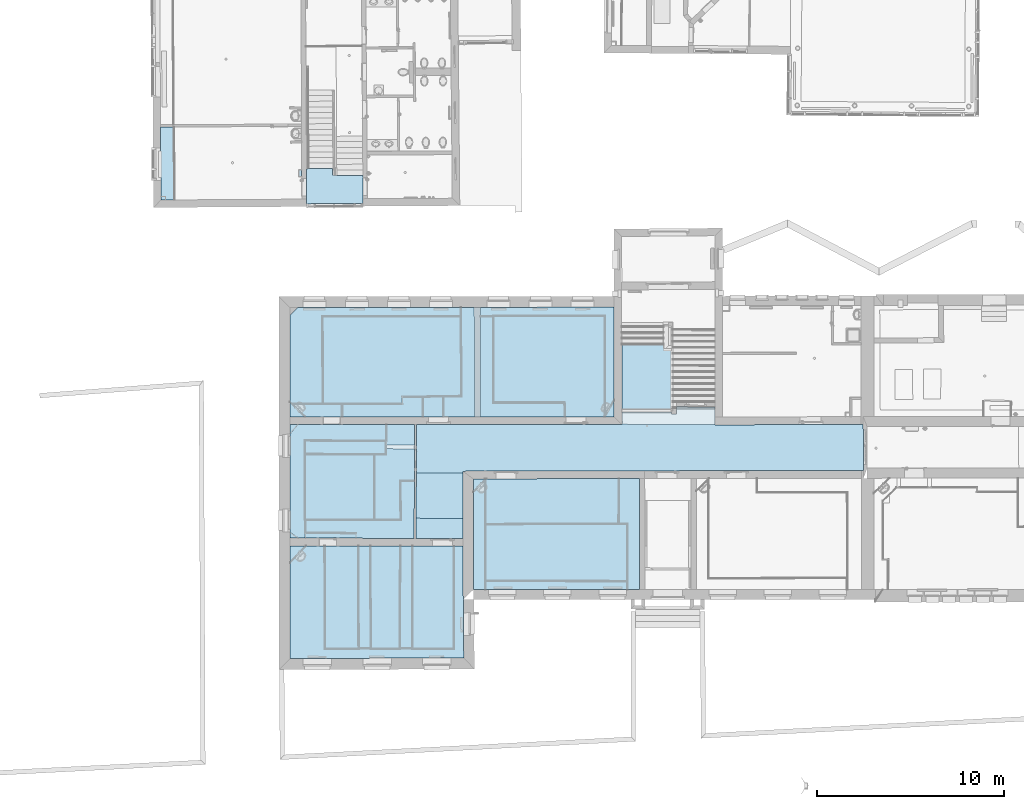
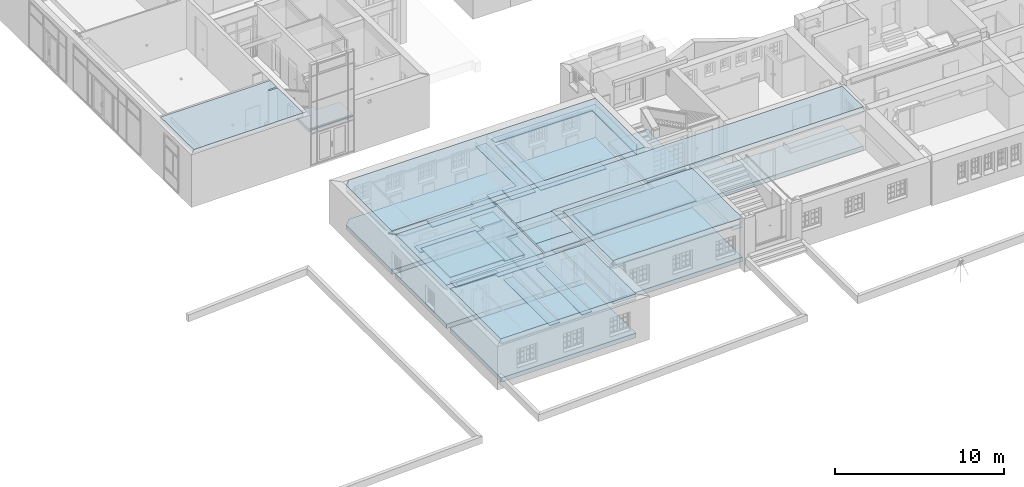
# One storey, part 10 of 196: 37 slabs.
"""IFC2X3 building model written with IfcOpenShell, lengths in metres."""

from ifc_helpers import new_model, entity, si_unit, converted_unit, derived_unit, money_unit, direction, frame, origin_with_axes, place, context, subcontext, project, spatial, polyline, outline, extrude, material, layer, layer_set, layer_usage, type_object, element, save


model = new_model("IFC2X3")

# Units and contexts
model_context = context("Model", 3, precision=1e-05, world=origin_with_axes(), true_north=direction((0.0, 1.0)))
body_context = subcontext(model_context, "Body", "Model", "MODEL_VIEW")
ifc_project = project(units=[si_unit("LENGTHUNIT", "METRE"), si_unit("AREAUNIT", "SQUARE_METRE"), si_unit("VOLUMEUNIT", "CUBIC_METRE"), converted_unit("PLANEANGLEUNIT", "DEGREE", entity("IfcPlaneAngleMeasure", 0.0174532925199), si_unit("PLANEANGLEUNIT", "RADIAN"), dimensions=[0, 0, 0, 0, 0, 0, 0]), money_unit("EUR"), converted_unit("TIMEUNIT", "Year", entity("IfcTimeMeasure", 31556926.0), si_unit("TIMEUNIT", "SECOND"), dimensions=[0, 0, 1, 0, 0, 0, 0]), si_unit("MASSUNIT", "GRAM", prefix="KILO"), si_unit("THERMODYNAMICTEMPERATUREUNIT", "DEGREE_CELSIUS"), si_unit("LUMINOUSINTENSITYUNIT", "LUMEN"), si_unit("ENERGYUNIT", "JOULE", prefix="MEGA"), derived_unit("THERMALCONDUCTANCEUNIT", [(si_unit("POWERUNIT", "WATT"), 1), (si_unit("LENGTHUNIT", "METRE"), -1), (si_unit("THERMODYNAMICTEMPERATUREUNIT", "KELVIN"), -1)]), derived_unit("SPECIFICHEATCAPACITYUNIT", [(si_unit("ENERGYUNIT", "JOULE"), 1), (si_unit("MASSUNIT", "GRAM", prefix="KILO"), -1), (si_unit("THERMODYNAMICTEMPERATUREUNIT", "KELVIN"), -1)]), derived_unit("MASSDENSITYUNIT", [(si_unit("MASSUNIT", "GRAM", prefix="KILO"), 1), (si_unit("VOLUMEUNIT", "CUBIC_METRE"), -1)])], contexts=[model_context])

# Site, building, storey
site_placement = place(None, origin_with_axes())
site = spatial("IfcSite", under=ifc_project, at=site_placement, Name="Gelände", CompositionType="ELEMENT")
building_placement = place(site_placement, origin_with_axes())
building = spatial("IfcBuilding", under=site, at=building_placement, Name="Gebäude", CompositionType="ELEMENT")
storey_placement = place(building_placement, frame((0.0, 0.0, -3.0), z_axis=(0.0, 0.0, 1.0), x_axis=(1.0, 0.0, 0.0)))
storey = spatial("IfcBuildingStorey", under=building, at=storey_placement, Name="KELLERGESCHOSS", CompositionType="ELEMENT", Elevation=-3.0)

# Slabs
ifc_material_1 = material(Name="01_ALLGEMEIN - BAUTEIL")
ifc_layer_1 = layer(ifc_material_1, 0.05, ventilated="UNKNOWN")
ifc_layer_set_1 = layer_set([ifc_layer_1], Name="01_ALLGEMEIN - BAUTEIL 0.05")
ifc_layer_usage_1 = layer_usage(ifc_layer_set_1, "AXIS3", "NEGATIVE", 0.05)
slab_type_1 = type_object("IfcSlabType", Name="01_ALLGEMEIN - BAUTEIL 50", PredefinedType="NOTDEFINED")
slab_1_placement = place(storey_placement, frame((-27.4208077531, 20.3658933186, 2.13), z_axis=(0.0, 0.0, 1.0), x_axis=(1.0, 0.0, 0.0)))
element("IfcSlab", 1, at=slab_1_placement, inside=storey, type_object=slab_type_1, material=ifc_layer_usage_1, Name="Belag-004", PredefinedType="NOTDEFINED", context=body_context, shape_type="SweptSolid", body=[
    extrude(outline(polyline([(0.0, 0.0), (0.711019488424, -0.694572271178), (2.65682893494, -0.69403436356), (2.65661020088, 0.00819850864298), (1.65122887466, 0.00509577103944), (0.0, 0.0)])), origin_with_axes(), (0.0, 0.0, 1.0), 0.05),
])
ifc_layer_usage_2 = layer_usage(ifc_layer_set_1, "AXIS3", "NEGATIVE", 0.05)
slab_2_placement = place(storey_placement, frame((-27.1241293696, 25.5129969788, 2.32), z_axis=(0.0, 0.0, 1.0), x_axis=(1.0, 0.0, 0.0)))
element("IfcSlab", 2, at=slab_2_placement, inside=storey, type_object=slab_type_1, material=ifc_layer_usage_2, Name="Belag-004", PredefinedType="NOTDEFINED", context=body_context, shape_type="SweptSolid", body=[
    extrude(outline(polyline([(0.0, 0.0), (-0.423357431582, -0.42905385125), (-0.419061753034, -5.02755124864), (-0.296678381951, -5.14710366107), (1.35455048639, -5.14200790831), (1.34646620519, -0.506597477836), (8.69243540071, -0.499245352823), (8.68835298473, 0.00580264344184), (0.0, 0.0)])), origin_with_axes(), (0.0, 0.0, 1.0), 0.05),
])
ifc_layer_usage_3 = layer_usage(ifc_layer_set_1, "AXIS3", "NEGATIVE", 0.05)
slab_3_placement = place(storey_placement, frame((-10.252070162, 25.5242652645, 2.32), z_axis=(0.0, 0.0, 1.0), x_axis=(1.0, 0.0, 0.0)))
element("IfcSlab", 3, at=slab_3_placement, inside=storey, type_object=slab_type_1, material=ifc_layer_usage_3, Name="Belag-004", PredefinedType="NOTDEFINED", context=body_context, shape_type="SweptSolid", body=[
    extrude(outline(polyline([(0.0, 0.0), (-7.12836812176, -0.00476081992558), (-7.12709412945, -0.485657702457), (-0.509999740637, -0.490862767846), (-0.504959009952, -5.83079872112), (0.000464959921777, -4.93922803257), (0.0, 0.0)])), origin_with_axes(), (0.0, 0.0, 1.0), 0.05),
])
ifc_layer_usage_4 = layer_usage(ifc_layer_set_1, "AXIS3", "NEGATIVE", 0.05)
slab_4_placement = place(storey_placement, frame((-24.7641975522, 20.3740918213, 2.04), z_axis=(0.0, 0.0, 1.0), x_axis=(1.0, 0.0, 0.0)))
element("IfcSlab", 4, at=slab_4_placement, inside=storey, type_object=slab_type_1, material=ifc_layer_usage_4, Name="Belag-005", PredefinedType="NOTDEFINED", context=body_context, shape_type="SweptSolid", body=[
    extrude(outline(polyline([(0.0, 0.0), (0.000218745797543, -0.702232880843), (4.32564877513, -0.701037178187), (4.33671136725, 0.384410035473), (3.21241515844, 0.366626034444), (3.21256941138, 0.0099141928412), (0.0, 0.0)])), origin_with_axes(), (0.0, 0.0, 1.0), 0.05),
])
ifc_layer_usage_5 = layer_usage(ifc_layer_set_1, "AXIS3", "NEGATIVE", 0.05)
slab_5_placement = place(storey_placement, frame((-22.4046540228, 17.6539421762, 2.11), z_axis=(0.0, 0.0, 1.0), x_axis=(1.0, 0.0, 0.0)))
element("IfcSlab", 5, at=slab_5_placement, inside=storey, type_object=slab_type_1, material=ifc_layer_usage_5, Name="Belag-005", PredefinedType="NOTDEFINED", context=body_context, shape_type="SweptSolid", body=[
    extrude(outline(polyline([(0.0, 0.0), (-0.00622231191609, 0.75222301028), (-4.33763410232, 0.764583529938), (-4.34363816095, 0.0135444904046), (0.0, 0.0)])), origin_with_axes(), (0.0, 0.0, 1.0), 0.05),
])
ifc_layer_usage_6 = layer_usage(ifc_layer_set_1, "AXIS3", "NEGATIVE", 0.05)
slab_6_placement = place(storey_placement, frame((-26.7248777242, 14.1971021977, 2.3), z_axis=(0.0, 0.0, 1.0), x_axis=(1.0, 0.0, 0.0)))
element("IfcSlab", 6, at=slab_6_placement, inside=storey, type_object=slab_type_1, material=ifc_layer_usage_6, Name="Belag-006", PredefinedType="NOTDEFINED", context=body_context, shape_type="SweptSolid", body=[
    extrude(outline(polyline([(0.0, 0.0), (0.00781968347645, -1.41614957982e-06), (0.0109195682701, 3.47027740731), (-0.0234144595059, 3.47038446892), (-0.0174104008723, 4.22142350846), (4.31400138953, 4.2090629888), (4.31462603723, 5.06540737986), (-0.382402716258, 5.06410897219), (-0.816688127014, 4.5485721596), (-0.811819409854, -0.663271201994), (-0.350114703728, -0.992453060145), (0.000887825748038, -0.992859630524), (3.45920057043e-08, -3.86843994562e-05), (0.0, 0.0)])), origin_with_axes(), (0.0, 0.0, 1.0), 0.05),
])
ifc_layer_usage_7 = layer_usage(ifc_layer_set_1, "AXIS3", "NEGATIVE", 0.05)
slab_7_placement = place(storey_placement, frame((-20.4274861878, 20.7585018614, 2.19), z_axis=(0.0, 0.0, 1.0), x_axis=(1.0, 0.0, 0.0)))
element("IfcSlab", 7, at=slab_7_placement, inside=storey, type_object=slab_type_1, material=ifc_layer_usage_7, Name="Belag-006", PredefinedType="NOTDEFINED", context=body_context, shape_type="SweptSolid", body=[
    extrude(outline(polyline([(0.0, 0.0), (-0.0110625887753, -1.08544716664), (1.05242650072, -1.08515318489), (1.05303472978, 0.0166567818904), (0.0, 0.0)])), origin_with_axes(), (0.0, 0.0, 1.0), 0.05),
])
ifc_layer_usage_8 = layer_usage(ifc_layer_set_1, "AXIS3", "NEGATIVE", 0.05)
slab_8_placement = place(storey_placement, frame((-26.7139581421, 17.6673796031, 2.42), z_axis=(0.0, 0.0, 1.0), x_axis=(1.0, 0.0, 0.0)))
element("IfcSlab", 8, at=slab_8_placement, inside=storey, type_object=slab_type_1, material=ifc_layer_usage_8, Name="Belag-007", PredefinedType="NOTDEFINED", context=body_context, shape_type="SweptSolid", body=[
    extrude(outline(polyline([(0.0, 0.0), (-0.00309989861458, -3.47027880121), (3.6989538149, -3.47094926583), (3.70042106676, -0.0115387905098), (0.0, 0.0)])), origin_with_axes(), (0.0, 0.0, 1.0), 0.05),
])
ifc_layer_usage_9 = layer_usage(ifc_layer_set_1, "AXIS3", "NEGATIVE", 0.05)
slab_9_placement = place(storey_placement, frame((-17.379164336, 25.0386075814, 2.11), z_axis=(0.0, 0.0, 1.0), x_axis=(1.0, 0.0, 0.0)))
element("IfcSlab", 9, at=slab_9_placement, inside=storey, type_object=slab_type_1, material=ifc_layer_usage_9, Name="Belag-007", PredefinedType="NOTDEFINED", context=body_context, shape_type="SweptSolid", body=[
    extrude(outline(polyline([(0.0, 0.0), (0.0142116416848, -5.36470327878), (4.52475215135, -5.36345636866), (4.51009803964, -4.59530377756), (0.721984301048, -4.5971578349), (0.714397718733, -0.000561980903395), (0.0, 0.0)])), origin_with_axes(), (0.0, 0.0, 1.0), 0.05),
])
ifc_layer_usage_10 = layer_usage(ifc_layer_set_1, "AXIS3", "NEGATIVE", 0.05)
slab_10_placement = place(storey_placement, frame((-19.3744514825, 20.7751586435, 2.12), z_axis=(0.0, 0.0, 1.0), x_axis=(1.0, 0.0, 0.0)))
element("IfcSlab", 10, at=slab_10_placement, inside=storey, type_object=slab_type_1, material=ifc_layer_usage_10, Name="Belag-007", PredefinedType="NOTDEFINED", context=body_context, shape_type="SweptSolid", body=[
    extrude(outline(polyline([(0.0, 0.0), (-0.000608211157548, -1.1018099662), (1.67949793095, -1.10134548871), (1.66401258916, 4.74412542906), (0.938675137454, 4.74364100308), (0.976893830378, 0.0154524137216), (0.0, 0.0)])), origin_with_axes(), (0.0, 0.0, 1.0), 0.05),
])
ifc_layer_usage_11 = layer_usage(ifc_layer_set_1, "AXIS3", "NEGATIVE", 0.05)
slab_11_placement = place(storey_placement, frame((-24.0126444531, 13.4749112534, 2.42), z_axis=(0.0, 0.0, 1.0), x_axis=(1.0, 0.0, 0.0)))
element("IfcSlab", 11, at=slab_11_placement, inside=storey, type_object=slab_type_1, material=ifc_layer_usage_11, Name="Belag-008", PredefinedType="NOTDEFINED", context=body_context, shape_type="SweptSolid", body=[
    extrude(outline(polyline([(0.0, 0.0), (-2.71161303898, 0.0285824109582), (-2.71134544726, -0.270668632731), (0.00884730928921, -0.273819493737), (0.0, 0.0)])), origin_with_axes(), (0.0, 0.0, 1.0), 0.05),
])
ifc_layer_usage_12 = layer_usage(ifc_layer_set_1, "AXIS3", "NEGATIVE", 0.05)
slab_12_placement = place(storey_placement, frame((-17.1070399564, 16.3035049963, 2.19), z_axis=(0.0, 0.0, 1.0), x_axis=(1.0, 0.0, 0.0)))
element("IfcSlab", 12, at=slab_12_placement, inside=storey, type_object=slab_type_1, material=ifc_layer_usage_12, Name="Belag-009", PredefinedType="NOTDEFINED", context=body_context, shape_type="SweptSolid", body=[
    extrude(outline(polyline([(0.0, 0.0), (-0.652491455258, -0.659788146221), (-0.642450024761, -5.84452901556), (0.019763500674, -5.84447919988), (0.0, 0.0)])), origin_with_axes(), (0.0, 0.0, 1.0), 0.05),
])
ifc_layer_usage_13 = layer_usage(ifc_layer_set_1, "AXIS3", "NEGATIVE", 0.05)
slab_13_placement = place(storey_placement, frame((-26.6612188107, 12.7941696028, 2.37), z_axis=(0.0, 0.0, 1.0), x_axis=(1.0, 0.0, 0.0)))
element("IfcSlab", 13, at=slab_13_placement, inside=storey, type_object=slab_type_1, material=ifc_layer_usage_13, Name="Belag-009", PredefinedType="NOTDEFINED", context=body_context, shape_type="SweptSolid", body=[
    extrude(outline(polyline([(0.0, 0.0), (-0.873922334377, -0.926032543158), (-0.869179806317, -6.0028821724), (8.39576273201, -5.98317224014), (8.36535842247, -2.85523477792), (8.3657351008, -2.85523477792), (8.36022402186, -0.00968382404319), (7.85964862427, -0.00910395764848), (7.85944198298, -5.47727624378), (0.998815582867, -5.49242059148), (0.994092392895, -0.00115144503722), (0.0, 0.0)])), origin_with_axes(), (0.0, 0.0, 1.0), 0.05),
])
ifc_layer_usage_14 = layer_usage(ifc_layer_set_1, "AXIS3", "NEGATIVE", 0.05)
slab_14_placement = place(storey_placement, frame((-23.0150043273, 14.1964303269, 2.28), z_axis=(0.0, 0.0, 1.0), x_axis=(1.0, 0.0, 0.0)))
element("IfcSlab", 14, at=slab_14_placement, inside=storey, type_object=slab_type_1, material=ifc_layer_usage_14, Name="Belag-009", PredefinedType="NOTDEFINED", context=body_context, shape_type="SweptSolid", body=[
    extrude(outline(polyline([(0.0, 0.0), (1.37476518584, -0.000248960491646), (1.36301746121, 2.07662925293), (2.1143023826, 2.06884242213), (2.12425990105, 3.77234647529), (0.60768507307, 3.77971480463), (0.610350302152, 3.45751182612), (0.00146723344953, 3.45941051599), (0.0, 0.0)])), origin_with_axes(), (0.0, 0.0, 1.0), 0.05),
])
ifc_layer_usage_15 = layer_usage(ifc_layer_set_1, "AXIS3", "NEGATIVE", 0.05)
slab_15_placement = place(storey_placement, frame((-10.009695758, 16.3856386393, 2.1), z_axis=(0.0, 0.0, 1.0), x_axis=(1.0, 0.0, 0.0)))
element("IfcSlab", 15, at=slab_15_placement, inside=storey, type_object=slab_type_1, material=ifc_layer_usage_15, Name="Belag-010", PredefinedType="NOTDEFINED", context=body_context, shape_type="SweptSolid", body=[
    extrude(outline(polyline([(0.0, 0.0), (-0.00718776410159, -2.43545473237), (0.469125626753, -2.43394370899), (0.462261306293, -5.92604535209), (1.11880260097, -5.92599596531), (1.11404459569, 0.0029124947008), (0.0, 0.0)])), origin_with_axes(), (0.0, 0.0, 1.0), 0.05),
])
ifc_layer_usage_16 = layer_usage(ifc_layer_set_1, "AXIS3", "NEGATIVE", 0.05)
slab_16_placement = place(storey_placement, frame((-23.2313996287, 12.7901968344, 2.13), z_axis=(0.0, 0.0, 1.0), x_axis=(1.0, 0.0, 0.0)))
element("IfcSlab", 16, at=slab_16_placement, inside=storey, type_object=slab_type_1, material=ifc_layer_usage_16, Name="Belag-010", PredefinedType="NOTDEFINED", context=body_context, shape_type="SweptSolid", body=[
    extrude(outline(polyline([(0.0, 0.0), (-0.666003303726, 0.000771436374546), (-0.651102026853, -5.48451881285), (0.030031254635, -5.48301525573), (0.0, 0.0)])), origin_with_axes(), (0.0, 0.0, 1.0), 0.05),
])
ifc_layer_usage_17 = layer_usage(ifc_layer_set_1, "AXIS3", "NEGATIVE", 0.05)
slab_17_placement = place(storey_placement, frame((-26.7248777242, 14.197063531, 2.11), z_axis=(0.0, 0.0, 1.0), x_axis=(1.0, 0.0, 0.0)))
element("IfcSlab", 17, at=slab_17_placement, inside=storey, type_object=slab_type_1, material=ifc_layer_usage_17, Name="Belag-010", PredefinedType="NOTDEFINED", context=body_context, shape_type="SweptSolid", body=[
    extrude(outline(polyline([(0.0, 0.0), (0.000620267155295, -0.693569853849), (2.71223325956, -0.722152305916), (2.72108059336, -0.995971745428), (5.80624394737, -0.999545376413), (5.824175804, 2.0682091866), (5.07289081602, 2.07599606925), (5.08463857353, -0.000882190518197), (0.00781968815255, 3.72316509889e-05), (0.0, 3.87070310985e-05), (0.0, 0.0)])), origin_with_axes(), (0.0, 0.0, 1.0), 0.05),
])
ifc_layer_usage_18 = layer_usage(ifc_layer_set_1, "AXIS3", "NEGATIVE", 0.05)
slab_18_placement = place(storey_placement, frame((-22.4102516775, 19.2625095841, 2.04963508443), z_axis=(0.0, 0.0, 1.0), x_axis=(1.0, 0.0, 0.0)))
element("IfcSlab", 18, at=slab_18_placement, inside=storey, type_object=slab_type_1, material=ifc_layer_usage_18, Name="Belag-011", PredefinedType="NOTDEFINED", context=body_context, shape_type="SweptSolid", body=[
    extrude(outline(polyline([(0.0, 0.0), (-0.00062465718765, -0.856344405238), (0.00123601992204, -1.08128307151), (1.52069591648, -1.09037540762), (1.52707192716, 0.00042214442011), (0.0, 0.0)])), origin_with_axes(), (0.0, 0.0, 1.0), 0.05),
])
ifc_layer_usage_19 = layer_usage(ifc_layer_set_1, "AXIS3", "NEGATIVE", 0.05)
slab_19_placement = place(storey_placement, frame((-21.6632399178, 12.7883803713, 2.13), z_axis=(0.0, 0.0, 1.0), x_axis=(1.0, 0.0, 0.0)))
element("IfcSlab", 19, at=slab_19_placement, inside=storey, type_object=slab_type_1, material=ifc_layer_usage_19, Name="Belag-011", PredefinedType="NOTDEFINED", context=body_context, shape_type="SweptSolid", body=[
    extrude(outline(polyline([(0.0, 0.0), (-0.0267612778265, -5.47786256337), (0.664377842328, -5.47633696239), (0.665660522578, -0.00077104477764), (0.0, 0.0)])), origin_with_axes(), (0.0, 0.0, 1.0), 0.05),
])
ifc_layer_usage_20 = layer_usage(ifc_layer_set_1, "AXIS3", "NEGATIVE", 0.05)
slab_20_placement = place(storey_placement, frame((-17.1070399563, 16.3035049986, 2.27), z_axis=(0.0, 0.0, 1.0), x_axis=(1.0, 0.0, 0.0)))
element("IfcSlab", 20, at=slab_20_placement, inside=storey, type_object=slab_type_1, material=ifc_layer_usage_20, Name="Belag-011", PredefinedType="NOTDEFINED", context=body_context, shape_type="SweptSolid", body=[
    extrude(outline(polyline([(0.0, 0.0), (0.00803385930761, -2.37578915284), (7.09015644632, -2.3533211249), (7.09734423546, 0.0821336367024), (0.0630388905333, 0.0637438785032), (0.0, 0.0)])), origin_with_axes(), (0.0, 0.0, 1.0), 0.05),
])
ifc_layer_usage_21 = layer_usage(ifc_layer_set_1, "AXIS3", "NEGATIVE", 0.05)
slab_21_placement = place(storey_placement, frame((-9.54653094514, 10.9192363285, 2.36), z_axis=(0.0, 0.0, 1.0), x_axis=(1.0, 0.0, 0.0)))
element("IfcSlab", 21, at=slab_21_placement, inside=storey, type_object=slab_type_1, material=ifc_layer_usage_21, Name="Belag-012", PredefinedType="NOTDEFINED", context=body_context, shape_type="SweptSolid", body=[
    extrude(outline(polyline([(0.0, 0.0), (-7.54233751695, 0.0105789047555), (-7.54074551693, -0.460210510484), (-0.000903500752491, -0.459643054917), (0.0, 0.0)])), origin_with_axes(), (0.0, 0.0, 1.0), 0.05),
])
ifc_material_2 = material(Name="05_ALLGEMEIN - TRAGENDE BAUTEILE")
ifc_layer_2 = layer(ifc_material_2, 0.33, ventilated="UNKNOWN")
ifc_layer_set_2 = layer_set([ifc_layer_2], Name="05_ALLGEMEIN - TRAGENDE BAUTEILE 0.33")
ifc_layer_usage_22 = layer_usage(ifc_layer_set_2, "AXIS3", "NEGATIVE", 0.33)
slab_type_2 = type_object("IfcSlabType", Name="05_ALLGEMEIN - TRAGENDE BAUTEILE 330", PredefinedType="NOTDEFINED")
slab_22_placement = place(storey_placement, frame((-27.5360071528, 12.7951829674, 2.46), z_axis=(0.0, 0.0, 1.0), x_axis=(1.0, 0.0, 0.0)))
element("IfcSlab", 22, at=slab_22_placement, inside=storey, type_object=slab_type_2, material=ifc_layer_usage_22, Name="Belag-006", PredefinedType="NOTDEFINED", context=body_context, shape_type="SweptSolid", body=[
    extrude(outline(polyline([(0.0, 0.0), (0.00560856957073, -6.00389553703), (9.27055107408, -5.98418555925), (9.24014682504, -2.85624818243), (9.24052340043, -2.85624818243), (9.23501235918, -0.0106971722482), (0.0, 0.0)])), origin_with_axes(), (0.0, 0.0, 1.0), 0.33),
])
ifc_layer_3 = layer(ifc_material_2, 0.56, ventilated="UNKNOWN")
ifc_layer_set_3 = layer_set([ifc_layer_3], Name="05_ALLGEMEIN - TRAGENDE BAUTEILE 0.56")
ifc_layer_usage_23 = layer_usage(ifc_layer_set_3, "AXIS3", "NEGATIVE", 0.56)
slab_type_3 = type_object("IfcSlabType", Name="05_ALLGEMEIN - TRAGENDE BAUTEILE 560", PredefinedType="NOTDEFINED")
slab_23_placement = place(storey_placement, frame((-20.7982559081, 16.6834397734, 2.23), z_axis=(0.0, 0.0, 1.0), x_axis=(1.0, 0.0, 0.0)))
element("IfcSlab", 23, at=slab_23_placement, inside=storey, type_object=slab_type_3, material=ifc_layer_usage_23, Name="Belag-015", PredefinedType="NOTDEFINED", context=body_context, shape_type="SweptSolid", body=[
    extrude(outline(polyline([(0.0, 0.0), (-0.0141147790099, -2.4147298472), (2.49441505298, -2.42946072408), (2.48969088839, 0.00975813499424), (0.0, 0.0)])), origin_with_axes(), (0.0, 0.0, 1.0), 0.56),
])
ifc_layer_4 = layer(ifc_material_2, 0.32, ventilated="UNKNOWN")
ifc_layer_set_4 = layer_set([ifc_layer_4], Name="05_ALLGEMEIN - TRAGENDE BAUTEILE 0.32")
ifc_layer_usage_24 = layer_usage(ifc_layer_set_4, "AXIS3", "NEGATIVE", 0.32)
slab_type_4 = type_object("IfcSlabType", Name="05_ALLGEMEIN - TRAGENDE BAUTEILE 320", PredefinedType="NOTDEFINED")
slab_24_placement = place(storey_placement, frame((-20.8186327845, 13.1974023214, -0.04), z_axis=(0.0, 0.0, 1.0), x_axis=(1.0, 0.0, 0.0)))
element("IfcSlab", 24, at=slab_24_placement, inside=storey, type_object=slab_type_4, material=ifc_layer_usage_24, Name="Belag-003", PredefinedType="NOTDEFINED", context=body_context, shape_type="SweptSolid", body=[
    extrude(outline(polyline([(0.0, 0.0), (2.51684389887, -0.00291530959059), (2.50991139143, 3.57654155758), (12.2026521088, 3.60188135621), (23.8670453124, 3.61234602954), (23.856432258, 6.08212119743), (15.9432808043, 6.04786308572), (15.9437047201, 7.00931126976), (13.8893496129, 7.02037954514), (13.8893496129, 6.62366687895), (13.6257663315, 6.62366687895), (13.6257663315, 6.73762127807), (10.9770883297, 6.74232330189), (10.9771502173, 6.08487984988), (10.9771517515, 6.06858172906), (0.0354549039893, 6.06555704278), (0.0, 0.0)])), frame((0.0, 0.0, -0.32), z_axis=(0.0, 0.0, 1.0), x_axis=(1.0, 0.0, 0.0)), (0.0, 0.0, 1.0), 0.32),
])
ifc_layer_usage_25 = layer_usage(ifc_layer_set_4, "AXIS3", "NEGATIVE", 0.32)
slab_25_placement = place(storey_placement, frame((-7.1213768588, 24.7150380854, -0.04), z_axis=(0.0, 0.0, 1.0), x_axis=(1.0, 0.0, 0.0)))
element("IfcSlab", 25, at=slab_25_placement, inside=storey, type_object=slab_type_4, material=ifc_layer_usage_25, Name="Belag-004", PredefinedType="NOTDEFINED", context=body_context, shape_type="SweptSolid", body=[
    extrude(outline(polyline([(0.0, 0.0), (-0.489418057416, -0.00293230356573), (-2.72061766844, 0.00589450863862), (-2.72050116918, -1.23167006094), (-2.72017883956, -4.65531228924), (-0.0714895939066, -4.66001429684), (-0.0714895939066, -0.312621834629), (-0.00382498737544, -0.313534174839), (-0.00372445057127, -0.263610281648), (0.00157917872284, -0.263578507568), (0.0, 0.0)])), frame((0.0, 0.0, -0.32), z_axis=(0.0, 0.0, 1.0), x_axis=(1.0, 0.0, 0.0)), (0.0, 0.0, 1.0), 0.32),
])
ifc_layer_usage_26 = layer_usage(ifc_layer_set_4, "AXIS3", "NEGATIVE", 0.32)
slab_26_placement = place(storey_placement, frame((-27.542047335, 19.2610909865, -0.04), z_axis=(0.0, 0.0, 1.0), x_axis=(1.0, 0.0, 0.0)))
element("IfcSlab", 26, at=slab_26_placement, inside=storey, type_object=slab_type_4, material=ifc_layer_usage_26, Name="Belag-004", PredefinedType="NOTDEFINED", context=body_context, shape_type="SweptSolid", body=[
    extrude(outline(polyline([(0.0, 0.0), (0.00565721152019, -6.05590740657), (6.62341351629, -6.06357283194), (6.65886758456, 0.00184072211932), (0.0, 0.0)])), frame((0.0, 0.0, -0.32), z_axis=(0.0, 0.0, 1.0), x_axis=(1.0, 0.0, 0.0)), (0.0, 0.0, 1.0), 0.32),
])
ifc_layer_5 = layer(ifc_material_2, 0.37, ventilated="UNKNOWN")
ifc_layer_set_5 = layer_set([ifc_layer_5], Name="05_ALLGEMEIN - TRAGENDE BAUTEILE 0.37")
ifc_layer_usage_27 = layer_usage(ifc_layer_set_5, "AXIS3", "NEGATIVE", 0.37)
slab_type_5 = type_object("IfcSlabType", Name="05_ALLGEMEIN - TRAGENDE BAUTEILE 370", PredefinedType="NOTDEFINED")
slab_27_placement = place(storey_placement, frame((-27.542047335, 19.2610909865, 2.42), z_axis=(0.0, 0.0, 1.0), x_axis=(1.0, 0.0, 0.0)))
element("IfcSlab", 27, at=slab_27_placement, inside=storey, type_object=slab_type_5, material=ifc_layer_usage_27, Name="Belag-004", PredefinedType="NOTDEFINED", context=body_context, shape_type="SweptSolid", body=[
    extrude(outline(polyline([(0.0, 0.0), (0.00565721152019, -6.05590740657), (6.62341351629, -6.06357283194), (6.65886758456, 0.00184072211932), (0.0, 0.0)])), origin_with_axes(), (0.0, 0.0, 1.0), 0.37),
])
ifc_layer_6 = layer(ifc_material_2, 0.35, ventilated="UNKNOWN")
ifc_layer_set_6 = layer_set([ifc_layer_6], Name="05_ALLGEMEIN - TRAGENDE BAUTEILE 0.35")
ifc_layer_usage_28 = layer_usage(ifc_layer_set_6, "AXIS3", "NEGATIVE", 0.35)
slab_type_6 = type_object("IfcSlabType", Name="05_ALLGEMEIN - TRAGENDE BAUTEILE 350", PredefinedType="NOTDEFINED")
slab_28_placement = place(storey_placement, frame((-27.1241293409, 25.5129970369, 2.44), z_axis=(0.0, 0.0, 1.0), x_axis=(1.0, 0.0, 0.0)))
element("IfcSlab", 28, at=slab_28_placement, inside=storey, type_object=slab_type_6, material=ifc_layer_usage_28, Name="Belag-004", PredefinedType="NOTDEFINED", context=body_context, shape_type="SweptSolid", body=[
    extrude(outline(polyline([(0.0, 0.0), (-0.423357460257, -0.429053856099), (-0.418301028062, -5.8419061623), (2.36015054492, -5.84113802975), (16.872609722, -5.83712632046), (16.8720591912, 0.011268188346), (0.0, 0.0)])), origin_with_axes(), (0.0, 0.0, 1.0), 0.35),
])
ifc_layer_usage_29 = layer_usage(ifc_layer_set_6, "AXIS3", "NEGATIVE", 0.35)
slab_29_placement = place(storey_placement, frame((-17.7609290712, 16.3653745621, 2.44), z_axis=(0.0, 0.0, 1.0), x_axis=(1.0, 0.0, 0.0)))
element("IfcSlab", 29, at=slab_29_placement, inside=storey, type_object=slab_type_6, material=ifc_layer_usage_29, Name="Belag-005", PredefinedType="NOTDEFINED", context=body_context, shape_type="SweptSolid", body=[
    extrude(outline(polyline([(0.0, 0.0), (0.0114391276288, -5.90639858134), (8.87003591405, -5.90573189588), (8.8652779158, 0.0231765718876), (0.0, 0.0)])), origin_with_axes(), (0.0, 0.0, 1.0), 0.35),
])
ifc_layer_7 = layer(ifc_material_2, 0.250000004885, ventilated="UNKNOWN")
ifc_layer_set_7 = layer_set([ifc_layer_7], Name="05_ALLGEMEIN - TRAGENDE BAUTEILE 0.25")
ifc_layer_usage_30 = layer_usage(ifc_layer_set_7, "AXIS3", "NEGATIVE", 0.25)
slab_type_7 = type_object("IfcSlabType", Name="05_ALLGEMEIN - TRAGENDE BAUTEILE 250", PredefinedType="NOTDEFINED")
slab_30_placement = place(storey_placement, frame((-34.4397764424, 35.1300602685, 3.81), z_axis=(0.0, 0.0, 1.0), x_axis=(1.0, 0.0, 0.0)))
element("IfcSlab", 30, at=slab_30_placement, inside=storey, type_object=slab_type_7, material=ifc_layer_usage_30, Name="Belag-004", PredefinedType="NOTDEFINED", context=body_context, shape_type="SweptSolid", body=[
    extrude(outline(polyline([(0.0, 0.0), (0.0227931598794, -3.88642559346), (7.53511893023, -3.84146075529), (7.52190613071, -0.841715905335), (6.93134962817, -0.848940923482), (6.93006512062, -0.743948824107), (7.52144364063, -0.736713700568), (7.51803453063, 0.0372701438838), (0.0, 0.0)])), origin_with_axes(), (0.0, 0.0, 1.0), 0.25),
])
ifc_layer_8 = layer(ifc_material_2, 0.13, ventilated="UNKNOWN")
ifc_layer_set_8 = layer_set([ifc_layer_8], Name="05_ALLGEMEIN - TRAGENDE BAUTEILE 0.13")
ifc_layer_usage_31 = layer_usage(ifc_layer_set_8, "AXIS3", "NEGATIVE", 0.13)
slab_type_8 = type_object("IfcSlabType", Name="05_ALLGEMEIN - TRAGENDE BAUTEILE 130", PredefinedType="NOTDEFINED")
slab_31_placement = place(storey_placement, frame((-23.6419916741, 31.308128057, 2.96), z_axis=(0.0, 0.0, 1.0), x_axis=(1.0, 0.0, 0.0)))
element("IfcSlab", 31, at=slab_31_placement, inside=storey, type_object=slab_type_8, material=ifc_layer_usage_31, Name="Belag-007", PredefinedType="NOTDEFINED", context=body_context, shape_type="SweptSolid", body=[
    extrude(outline(polyline([(0.0, 0.0), (-0.00913659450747, 1.24085165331), (-1.402675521, 1.23419704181), (-1.40283132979, 1.26682488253), (-1.61830895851, 1.2652827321), (-1.61981154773, 1.6064208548), (-3.01979796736, 1.60025442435), (-3.01267000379, -0.0180322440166), (-3.00755040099, -0.0180016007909), (-3.0064003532, -0.267583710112), (-0.0075206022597, -0.249634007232), (-0.00867065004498, -5.18979102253e-05), (0.0, 0.0)])), frame((0.0, 0.0, -0.13), z_axis=(0.0, 0.0, 1.0), x_axis=(1.0, 0.0, 0.0)), (0.0, 0.0, 1.0), 0.13),
])
ifc_layer_9 = layer(ifc_material_2, 0.314114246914, ventilated="UNKNOWN")
ifc_layer_set_9 = layer_set([ifc_layer_9], Name="05_ALLGEMEIN - TRAGENDE BAUTEILE 0.314114")
ifc_layer_usage_32 = layer_usage(ifc_layer_set_9, "AXIS3", "NEGATIVE", 0.314114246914)
slab_type_9 = type_object("IfcSlabType", Name="05_ALLGEMEIN - TRAGENDE BAUTEILE 314", PredefinedType="NOTDEFINED")
slab_32_placement = place(storey_placement, frame((-27.5474868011, 25.0839431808, -0.0458857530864), z_axis=(0.0, 0.0, 1.0), x_axis=(1.0, 0.0, 0.0)))
element("IfcSlab", 32, at=slab_32_placement, inside=storey, type_object=slab_type_9, material=ifc_layer_usage_32, Name="Belag-003", PredefinedType="NOTDEFINED", context=body_context, shape_type="SweptSolid", body=[
    extrude(outline(polyline([(0.0, 0.0), (0.00505643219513, -5.4128523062), (17.2959671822, -5.40807246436), (17.2954166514, 0.440322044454), (0.423357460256, 0.429053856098), (0.0, 0.0)])), frame((0.0, 0.0, -0.314114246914), z_axis=(0.0, 0.0, 1.0), x_axis=(1.0, 0.0, 0.0)), (0.0, 0.0, 1.0), 0.314114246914),
])
ifc_layer_10 = layer(ifc_material_2, 0.318564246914, ventilated="UNKNOWN")
ifc_layer_set_10 = layer_set([ifc_layer_10], Name="05_ALLGEMEIN - TRAGENDE BAUTEILE 0.318564")
ifc_layer_usage_33 = layer_usage(ifc_layer_set_10, "AXIS3", "NEGATIVE", 0.318564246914)
slab_type_10 = type_object("IfcSlabType", Name="05_ALLGEMEIN - TRAGENDE BAUTEILE 319", PredefinedType="NOTDEFINED")
slab_33_placement = place(storey_placement, frame((-27.5360071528, 12.7951829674, -0.0414357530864), z_axis=(0.0, 0.0, 1.0), x_axis=(1.0, 0.0, 0.0)))
element("IfcSlab", 33, at=slab_33_placement, inside=storey, type_object=slab_type_10, material=ifc_layer_usage_33, Name="Belag-003", PredefinedType="NOTDEFINED", context=body_context, shape_type="SweptSolid", body=[
    extrude(outline(polyline([(0.0, 0.0), (0.00560856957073, -6.00389553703), (9.27055107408, -5.98418555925), (9.24014682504, -2.85624818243), (9.24052340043, -2.85624818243), (9.23501235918, -0.0106971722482), (0.0, 0.0)])), frame((0.0, 0.0, -0.318564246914), z_axis=(0.0, 0.0, 1.0), x_axis=(1.0, 0.0, 0.0)), (0.0, 0.0, 1.0), 0.318564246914),
])
ifc_layer_11 = layer(ifc_material_2, 0.315651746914, ventilated="UNKNOWN")
ifc_layer_set_11 = layer_set([ifc_layer_11], Name="05_ALLGEMEIN - TRAGENDE BAUTEILE 0.315652")
ifc_layer_usage_34 = layer_usage(ifc_layer_set_11, "AXIS3", "NEGATIVE", 0.315651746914)
slab_type_11 = type_object("IfcSlabType", Name="05_ALLGEMEIN - TRAGENDE BAUTEILE 316", PredefinedType="NOTDEFINED")
slab_34_placement = place(storey_placement, frame((-8.89565115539, 16.388551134, -0.0443482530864), z_axis=(0.0, 0.0, 1.0), x_axis=(1.0, 0.0, 0.0)))
element("IfcSlab", 34, at=slab_34_placement, inside=storey, type_object=slab_type_11, material=ifc_layer_usage_34, Name="Belag-003", PredefinedType="NOTDEFINED", context=body_context, shape_type="SweptSolid", body=[
    extrude(outline(polyline([(0.0, 0.0), (-8.8652779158, -0.0231765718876), (-8.85383878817, -5.92957515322), (0.00475799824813, -5.92890846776), (0.0, 0.0)])), frame((0.0, 0.0, -0.315651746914), z_axis=(0.0, 0.0, 1.0), x_axis=(1.0, 0.0, 0.0)), (0.0, 0.0, 1.0), 0.315651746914),
])
ifc_layer_12 = layer(ifc_material_2, 0.121830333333, ventilated="UNKNOWN")
ifc_layer_set_12 = layer_set([ifc_layer_12], Name="05_ALLGEMEIN - TRAGENDE BAUTEILE 0.12183")
ifc_layer_usage_35 = layer_usage(ifc_layer_set_12, "AXIS3", "NEGATIVE", 0.121830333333)
slab_type_12 = type_object("IfcSlabType", Name="05_ALLGEMEIN - TRAGENDE BAUTEILE 122", PredefinedType="NOTDEFINED")
slab_35_placement = place(storey_placement, frame((-23.6419916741, 31.308128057, 2.70816966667), z_axis=(0.0, 0.0, 1.0), x_axis=(1.0, 0.0, 0.0)))
element("IfcSlab", 35, at=slab_35_placement, inside=storey, type_object=slab_type_12, material=ifc_layer_usage_35, Name="Belag-007", PredefinedType="NOTDEFINED", context=body_context, shape_type="SweptSolid", body=[
    extrude(outline(polyline([(0.0, 0.0), (-0.00913659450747, 1.24085165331), (-1.402675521, 1.23419704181), (-1.40283132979, 1.26682488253), (-1.61830895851, 1.2652827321), (-1.61981154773, 1.6064208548), (-3.01979796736, 1.60025442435), (-3.01267000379, -0.0180322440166), (-3.00755040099, -0.0180016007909), (-3.0064003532, -0.267583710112), (-0.0075206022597, -0.249634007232), (-0.00867065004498, -5.18979102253e-05), (0.0, 0.0)])), origin_with_axes(), (0.0, 0.0, 1.0), 0.121830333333),
])
ifc_layer_13 = layer(ifc_material_2, 0.46, ventilated="UNKNOWN")
ifc_layer_set_13 = layer_set([ifc_layer_13], Name="05_ALLGEMEIN - TRAGENDE BAUTEILE 0.46")
ifc_layer_usage_36 = layer_usage(ifc_layer_set_13, "AXIS3", "NEGATIVE", 0.46)
slab_type_13 = type_object("IfcSlabType", Name="05_ALLGEMEIN - TRAGENDE BAUTEILE 460", PredefinedType="NOTDEFINED")
slab_36_placement = place(storey_placement, frame((-20.7982559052, 16.6834397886, 2.33), z_axis=(0.0, 0.0, 1.0), x_axis=(1.0, 0.0, 0.0)))
element("IfcSlab", 36, at=slab_36_placement, inside=storey, type_object=slab_type_13, material=ifc_layer_usage_36, Name="Belag-015", PredefinedType="NOTDEFINED", context=body_context, shape_type="SweptSolid", body=[
    extrude(outline(polyline([(0.0, 0.0), (2.48969089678, 0.00975811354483), (2.48953451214, 0.090504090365), (12.1822752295, 0.115843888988), (23.8466684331, 0.126308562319), (23.8360553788, 2.59608373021), (15.922903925, 2.5618256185), (15.9229117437, 2.5795585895), (10.956773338, 2.59884238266), (10.9567748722, 2.58254426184), (0.0150780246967, 2.57951957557), (0.0, 0.0)])), origin_with_axes(), (0.0, 0.0, 1.0), 0.46),
])
ifc_layer_14 = layer(ifc_material_2, 0.45, ventilated="UNKNOWN")
ifc_layer_set_14 = layer_set([ifc_layer_14], Name="05_ALLGEMEIN - TRAGENDE BAUTEILE 0.45")
ifc_layer_usage_37 = layer_usage(ifc_layer_set_14, "AXIS3", "NEGATIVE", 0.45)
slab_type_14 = type_object("IfcSlabType", Name="05_ALLGEMEIN - TRAGENDE BAUTEILE 450", PredefinedType="NOTDEFINED")
slab_37_placement = place(storey_placement, frame((-20.8123706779, 14.2687099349, 2.34), z_axis=(0.0, 0.0, 1.0), x_axis=(1.0, 0.0, 0.0)))
element("IfcSlab", 37, at=slab_37_placement, inside=storey, type_object=slab_type_14, material=ifc_layer_usage_37, Name="Belag-016", PredefinedType="NOTDEFINED", context=body_context, shape_type="SweptSolid", body=[
    extrude(outline(polyline([(0.0, 0.0), (-0.00626210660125, -1.07130762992), (2.51058179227, -1.0742229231), (2.50852983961, -0.0147308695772), (0.0, 0.0)])), origin_with_axes(), (0.0, 0.0, 1.0), 0.45),
])

save(model, "model.ifc")
